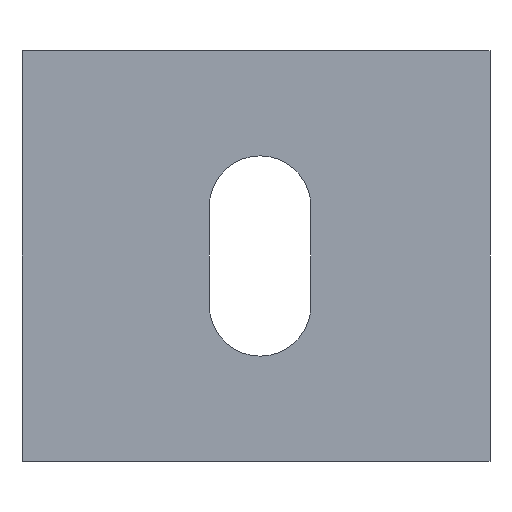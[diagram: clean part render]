
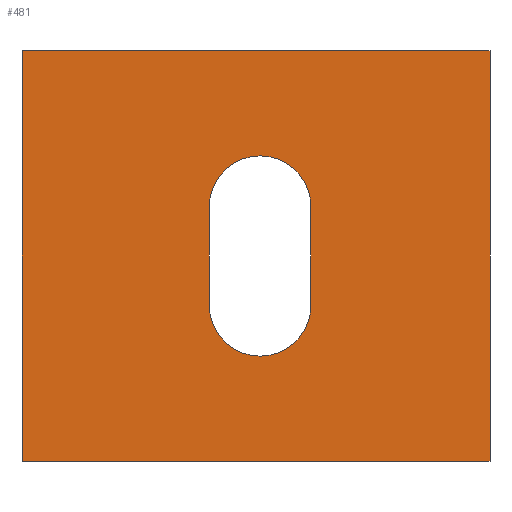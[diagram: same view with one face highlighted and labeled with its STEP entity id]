
A CAD part, front view. The second image highlights one B-rep face of the part: STEP entity #481.
In plain terms, the highlighted planar face has unit normal (0, -1, 0).
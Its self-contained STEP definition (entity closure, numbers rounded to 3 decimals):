
#5=DIRECTION('',(0.,0.,-1.));
#6=VECTOR('',#5,25.);
#7=CARTESIAN_POINT('',(-14.5,-4.4,87.5));
#8=LINE('',#7,#6);
#111=DIRECTION('',(0.,0.,-1.));
#112=VECTOR('',#111,6.);
#113=CARTESIAN_POINT('',(-3.097,-4.4,78.));
#114=LINE('',#113,#112);
#115=CARTESIAN_POINT('',(0.,-4.4,72.));
#116=DIRECTION('',(0.,-1.,0.));
#117=DIRECTION('',(-1.,0.,0.));
#118=AXIS2_PLACEMENT_3D('',#115,#116,#117);
#120=DIRECTION('',(0.,0.,1.));
#121=VECTOR('',#120,6.);
#122=CARTESIAN_POINT('',(3.097,-4.4,72.));
#123=LINE('',#122,#121);
#124=CARTESIAN_POINT('',(0.,-4.4,78.));
#125=DIRECTION('',(0.,-1.,0.));
#126=DIRECTION('',(1.,0.,0.));
#127=AXIS2_PLACEMENT_3D('',#124,#125,#126);
#129=DIRECTION('',(1.,0.,0.));
#130=VECTOR('',#129,28.5);
#131=CARTESIAN_POINT('',(-14.5,-4.4,87.5));
#132=LINE('',#131,#130);
#133=DIRECTION('',(0.,0.,-1.));
#134=VECTOR('',#133,25.);
#135=CARTESIAN_POINT('',(14.,-4.4,87.5));
#136=LINE('',#135,#134);
#137=DIRECTION('',(1.,0.,0.));
#138=VECTOR('',#137,28.5);
#139=CARTESIAN_POINT('',(-14.5,-4.4,62.5));
#140=LINE('',#139,#138);
#209=CARTESIAN_POINT('',(-3.097,-4.4,78.));
#210=CARTESIAN_POINT('',(-3.097,-4.4,72.));
#211=VERTEX_POINT('',#209);
#212=VERTEX_POINT('',#210);
#213=CARTESIAN_POINT('',(3.097,-4.4,72.));
#214=VERTEX_POINT('',#213);
#215=CARTESIAN_POINT('',(3.097,-4.4,78.));
#216=VERTEX_POINT('',#215);
#234=CARTESIAN_POINT('',(-14.5,-4.4,87.5));
#236=VERTEX_POINT('',#234);
#238=CARTESIAN_POINT('',(-14.5,-4.4,62.5));
#240=VERTEX_POINT('',#238);
#257=CARTESIAN_POINT('',(14.,-4.4,87.5));
#259=VERTEX_POINT('',#257);
#261=CARTESIAN_POINT('',(14.,-4.4,62.5));
#263=VERTEX_POINT('',#261);
#462=CARTESIAN_POINT('',(-14.5,-4.4,0.));
#463=DIRECTION('',(0.,-1.,0.));
#464=DIRECTION('',(1.,0.,0.));
#465=AXIS2_PLACEMENT_3D('',#462,#463,#464);
#466=PLANE('',#465);
#467=ORIENTED_EDGE('',*,*,#299,.T.);
#469=ORIENTED_EDGE('',*,*,#468,.T.);
#471=ORIENTED_EDGE('',*,*,#470,.F.);
#472=ORIENTED_EDGE('',*,*,#272,.F.);
#473=EDGE_LOOP('',(#467,#469,#471,#472));
#474=FACE_OUTER_BOUND('',#473,.F.);
#475=ORIENTED_EDGE('',*,*,#414,.T.);
#476=ORIENTED_EDGE('',*,*,#429,.T.);
#477=ORIENTED_EDGE('',*,*,#443,.T.);
#478=ORIENTED_EDGE('',*,*,#456,.T.);
#479=EDGE_LOOP('',(#475,#476,#477,#478));
#480=FACE_BOUND('',#479,.F.);
#481=ADVANCED_FACE('',(#474,#480),#466,.T.);
#119=CIRCLE('',#118,3.097);
#128=CIRCLE('',#127,3.097);
#272=EDGE_CURVE('',#236,#240,#8,.T.);
#299=EDGE_CURVE('',#236,#259,#132,.T.);
#414=EDGE_CURVE('',#211,#212,#114,.T.);
#429=EDGE_CURVE('',#212,#214,#119,.T.);
#443=EDGE_CURVE('',#214,#216,#123,.T.);
#456=EDGE_CURVE('',#216,#211,#128,.T.);
#468=EDGE_CURVE('',#259,#263,#136,.T.);
#470=EDGE_CURVE('',#240,#263,#140,.T.);
